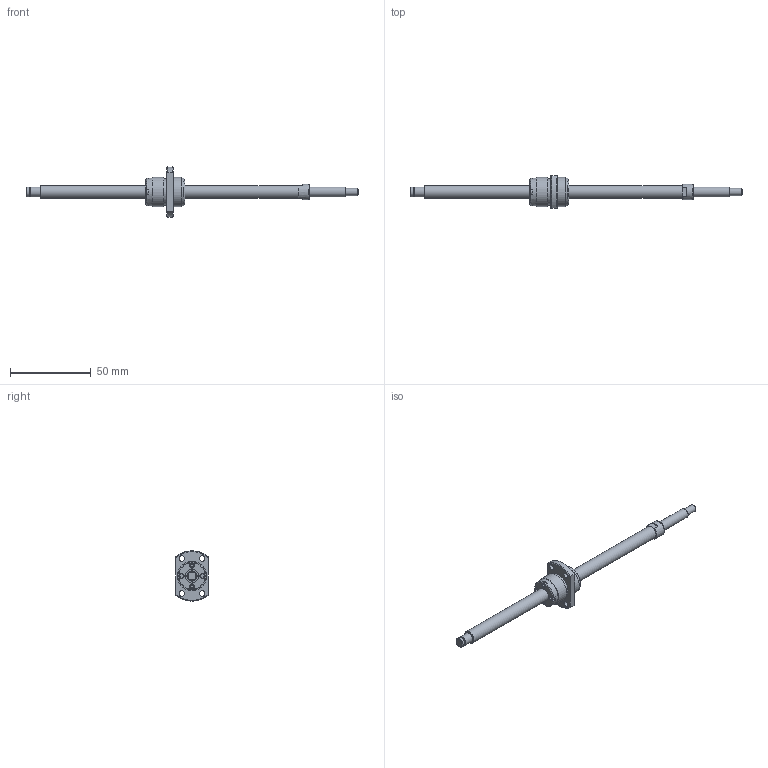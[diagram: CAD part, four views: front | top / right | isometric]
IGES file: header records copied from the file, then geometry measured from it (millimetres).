
Start section: Data from Parasolid IGES Translator 26.0.171, Copyright(c) 2006 Siemens PLM Software. All Rights Reserved.
Global section: file name: BNK0810-3GT+205LC5Y(89).igs; native system: By Siemens PLM Incorporated; preprocessor: XPlus GENERIC/IGES 26.0.171; author: Noname; organization: Noname; date: 20240709.085631; units: millimetre
Bounding box: 205 x 20 x 31 mm (x, y, z)
Surface area: 8393.2 mm2 (no closed solid volume)
Topology: 0 solids, 0 shells, 116 faces, 542 edges, 495 vertices
Faces by surface type: extrusion 66, revolution 50
